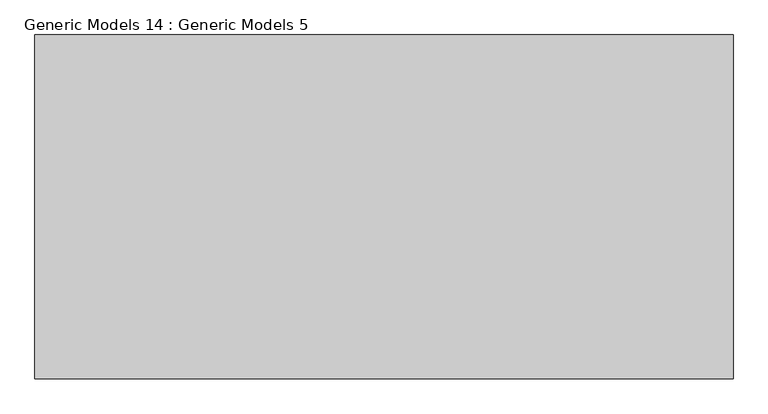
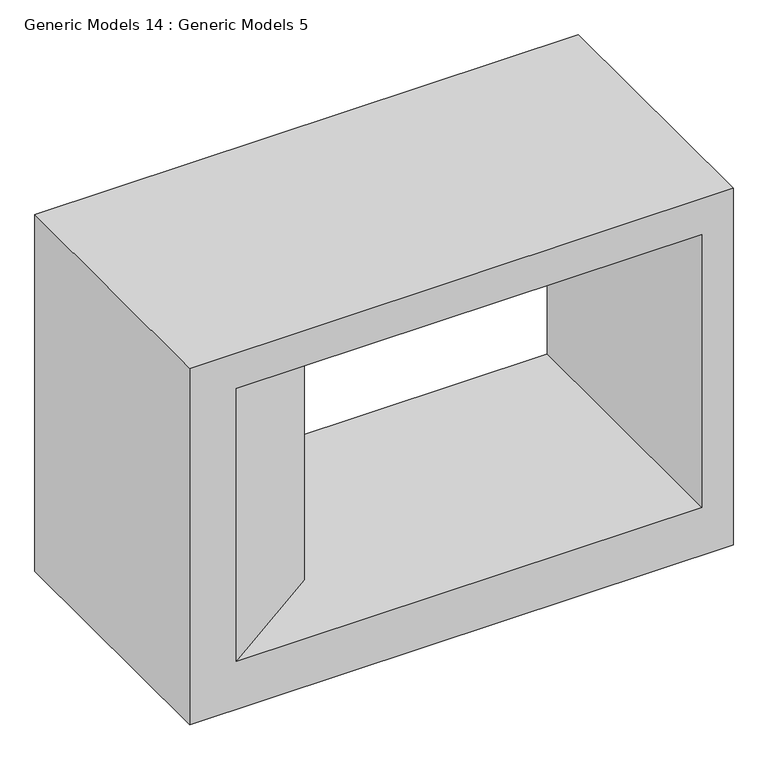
"""IFC4 building model written with IfcOpenShell, lengths in millimetres: proxy geometry, Generic Models 14 : Generic Models 5."""

from ifc_helpers import new_model, si_unit, origin, place, context, project, spatial, faceted_brep, source, transform, mapped, element, save


def generic_models_14_generic_models_5_a8c29970(model_context):
    return source(origin(), model_context, "Body", "Brep", [
        faceted_brep([(-5763.3274035, -4593.884564, 15000.0), (-10085.4354417, -4593.884564, 15000.0), (-10085.4354417, -4593.884564, 12000.0), (-5763.3274035, -4593.884564, 12000.0), (-9713.3274035, -4593.884564, 14700.0), (-6013.3274035, -4593.884564, 14700.0), (-6013.3274035, -4593.884564, 12403.5380954), (-9713.3274035, -4593.884564, 12403.5380954), (-5763.3274035, -2464.8895121, 15000.0), (-5763.3274035, -2464.8895121, 12000.0), (-10085.4354417, -2464.8895121, 12000.0), (-10085.4354417, -2464.8895121, 15000.0), (-6013.3274035, -2464.8895121, 12403.5380954), (-6013.3274035, -2464.8895121, 14700.0), (-8818.5171482, -2464.8895121, 14700.0), (-8818.5171482, -2464.8895121, 12403.5380954), (-8818.5171482, -3981.3909196, 14700.0), (-8818.5171482, -3981.3909196, 12403.5380954)], [[[0, 1, 2, 3], [4, 5, 6, 7]], [[8, 9, 10, 11], [12, 13, 14, 15]], [[1, 0, 8, 11]], [[2, 1, 11, 10]], [[3, 2, 10, 9]], [[0, 3, 9, 8]], [[5, 4, 16, 14, 13]], [[6, 5, 13, 12]], [[7, 6, 12, 15, 17]], [[4, 7, 17, 16]], [[17, 15, 14, 16]]]),
    ])


if __name__ == "__main__":
    model = new_model("IFC4")
    model_context = context("Model", 3, world=origin())
    ifc_project = project(units=[si_unit("LENGTHUNIT", "METRE", prefix="MILLI")], contexts=[model_context])
    site = spatial("IfcSite", under=ifc_project)
    building = spatial("IfcBuilding", under=site)
    placement = place(None, origin())
    generic_models_14_generic_models_5_shape = generic_models_14_generic_models_5_a8c29970(model_context)
    element("IfcBuildingElementProxy", 1, Name="Generic Models 14 : Generic Models 5", ObjectType="Generic Models 14 : Generic Models 5", at=placement, inside=building, context=model_context, shape_type="MappedRepresentation", body=[
        mapped(generic_models_14_generic_models_5_shape, transform((0.0, 0.0, 0.0), x_axis=(1.0, 0.0, 0.0), y_axis=(0.0, 1.0, 0.0), z_axis=(0.0, 0.0, 1.0))),
    ])
    save(model, "model.ifc")
